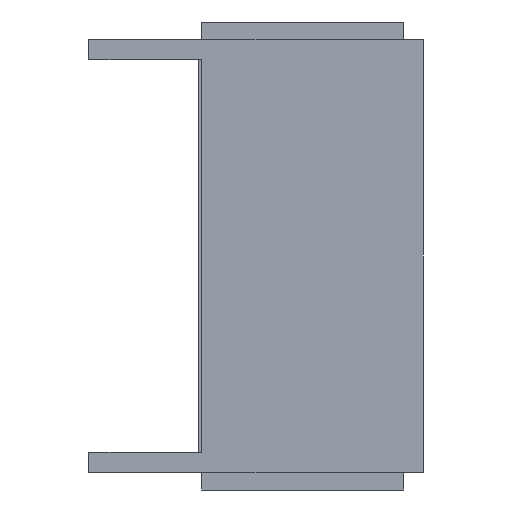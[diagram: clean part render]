
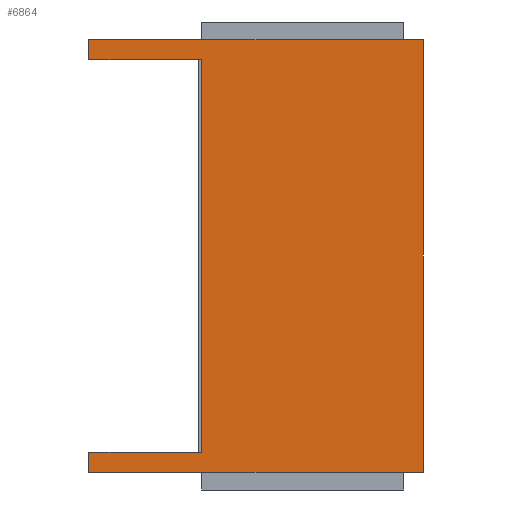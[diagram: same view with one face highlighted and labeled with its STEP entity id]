
A CAD part, front view. The second image highlights one B-rep face of the part: STEP entity #6864.
In plain terms, the highlighted planar face has unit normal (0, -1, 0).
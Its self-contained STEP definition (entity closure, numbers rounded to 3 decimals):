
#436 = EDGE_CURVE ( 'NONE', #1928, #9645, #4426, .T. ) ;
#611 = VERTEX_POINT ( 'NONE', #4430 ) ;
#713 = VERTEX_POINT ( 'NONE', #7170 ) ;
#1106 = ORIENTED_EDGE ( 'NONE', *, *, #3060, .T. ) ;
#1134 = VECTOR ( 'NONE', #10455, 1000. ) ;
#1244 = CARTESIAN_POINT ( 'NONE',  ( -375.515, -176.895, -440. ) ) ;
#1254 = CARTESIAN_POINT ( 'NONE',  ( -375.515, -176.895, 443. ) ) ;
#1293 = CARTESIAN_POINT ( 'NONE',  ( -122.515, -176.895, 440. ) ) ;
#1565 = ORIENTED_EDGE ( 'NONE', *, *, #3419, .F. ) ;
#1633 = DIRECTION ( 'NONE',  ( 0., 0., 1. ) ) ;
#1803 = CARTESIAN_POINT ( 'NONE',  ( -375.515, -176.895, -485. ) ) ;
#1809 = DIRECTION ( 'NONE',  ( 0., 0., -1. ) ) ;
#1811 = LINE ( 'NONE', #12203, #9728 ) ;
#1914 = EDGE_CURVE ( 'NONE', #2650, #6514, #3167, .T. ) ;
#1928 = VERTEX_POINT ( 'NONE', #1244 ) ;
#2032 = EDGE_CURVE ( 'NONE', #6514, #11647, #13094, .T. ) ;
#2132 = VECTOR ( 'NONE', #2474, 1000. ) ;
#2284 = DIRECTION ( 'NONE',  ( 0., 0., -1. ) ) ;
#2424 = ORIENTED_EDGE ( 'NONE', *, *, #2892, .F. ) ;
#2461 = ORIENTED_EDGE ( 'NONE', *, *, #2032, .F. ) ;
#2474 = DIRECTION ( 'NONE',  ( -1., 0., 0. ) ) ;
#2594 = DIRECTION ( 'NONE',  ( 1., 0., 0. ) ) ;
#2650 = VERTEX_POINT ( 'NONE', #3994 ) ;
#2892 = EDGE_CURVE ( 'NONE', #1928, #2650, #3423, .T. ) ;
#3060 = EDGE_CURVE ( 'NONE', #9645, #713, #9702, .T. ) ;
#3167 = LINE ( 'NONE', #1293, #13330 ) ;
#3216 = CARTESIAN_POINT ( 'NONE',  ( -375.515, -176.895, -440. ) ) ;
#3246 = EDGE_CURVE ( 'NONE', #10952, #713, #1811, .T. ) ;
#3419 = EDGE_CURVE ( 'NONE', #611, #10952, #7438, .T. ) ;
#3423 = LINE ( 'NONE', #3216, #1134 ) ;
#3706 = CARTESIAN_POINT ( 'NONE',  ( -375.515, -176.895, 440. ) ) ;
#3994 = CARTESIAN_POINT ( 'NONE',  ( -122.515, -176.895, -440. ) ) ;
#4054 = CARTESIAN_POINT ( 'NONE',  ( -375.515, -176.895, 440. ) ) ;
#4426 = LINE ( 'NONE', #1254, #6365 ) ;
#4430 = CARTESIAN_POINT ( 'NONE',  ( -375.515, -176.895, 485. ) ) ;
#4606 = CARTESIAN_POINT ( 'NONE',  ( -375.515, -176.895, 485. ) ) ;
#4969 = DIRECTION ( 'NONE',  ( 0., 0., 1. ) ) ;
#5547 = CARTESIAN_POINT ( 'NONE',  ( -375.515, -176.895, 443. ) ) ;
#6365 = VECTOR ( 'NONE', #2284, 1000. ) ;
#6514 = VERTEX_POINT ( 'NONE', #8109 ) ;
#6864 = ADVANCED_FACE ( 'NONE', ( #8662 ), #11102, .F. ) ;
#6919 = CARTESIAN_POINT ( 'NONE',  ( 0., -176.895, 443. ) ) ;
#7170 = CARTESIAN_POINT ( 'NONE',  ( 374.485, -176.895, -485. ) ) ;
#7438 = LINE ( 'NONE', #4606, #12292 ) ;
#7622 = EDGE_CURVE ( 'NONE', #611, #11647, #9262, .T. ) ;
#8109 = CARTESIAN_POINT ( 'NONE',  ( -122.515, -176.895, 440. ) ) ;
#8662 = FACE_OUTER_BOUND ( 'NONE', #12386, .T. ) ;
#9262 = LINE ( 'NONE', #5547, #9909 ) ;
#9431 = VECTOR ( 'NONE', #2594, 1000. ) ;
#9645 = VERTEX_POINT ( 'NONE', #1803 ) ;
#9657 = ORIENTED_EDGE ( 'NONE', *, *, #7622, .T. ) ;
#9702 = LINE ( 'NONE', #10851, #9431 ) ;
#9728 = VECTOR ( 'NONE', #1809, 1000. ) ;
#9909 = VECTOR ( 'NONE', #11728, 1000. ) ;
#9984 = ORIENTED_EDGE ( 'NONE', *, *, #436, .T. ) ;
#10088 = CARTESIAN_POINT ( 'NONE',  ( 374.485, -176.895, 485. ) ) ;
#10146 = DIRECTION ( 'NONE',  ( 1., 0., 0. ) ) ;
#10455 = DIRECTION ( 'NONE',  ( 1., 0., 0. ) ) ;
#10821 = ORIENTED_EDGE ( 'NONE', *, *, #1914, .F. ) ;
#10851 = CARTESIAN_POINT ( 'NONE',  ( -375.515, -176.895, -485. ) ) ;
#10952 = VERTEX_POINT ( 'NONE', #10088 ) ;
#11102 = PLANE ( 'NONE',  #12400 ) ;
#11152 = DIRECTION ( 'NONE',  ( 0., 1., 0. ) ) ;
#11647 = VERTEX_POINT ( 'NONE', #3706 ) ;
#11728 = DIRECTION ( 'NONE',  ( 0., 0., -1. ) ) ;
#12203 = CARTESIAN_POINT ( 'NONE',  ( 374.485, -176.895, 443. ) ) ;
#12292 = VECTOR ( 'NONE', #10146, 1000. ) ;
#12386 = EDGE_LOOP ( 'NONE', ( #9657, #2461, #10821, #2424, #9984, #1106, #12574, #1565 ) ) ;
#12400 = AXIS2_PLACEMENT_3D ( 'NONE', #6919, #11152, #4969 ) ;
#12574 = ORIENTED_EDGE ( 'NONE', *, *, #3246, .F. ) ;
#13094 = LINE ( 'NONE', #4054, #2132 ) ;
#13330 = VECTOR ( 'NONE', #1633, 1000. ) ;
